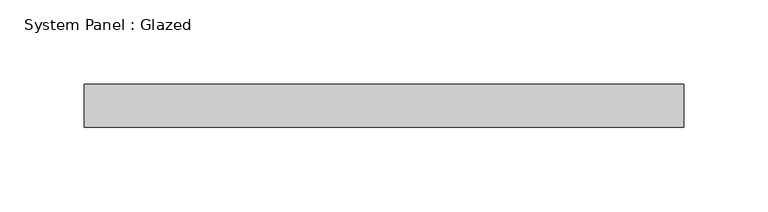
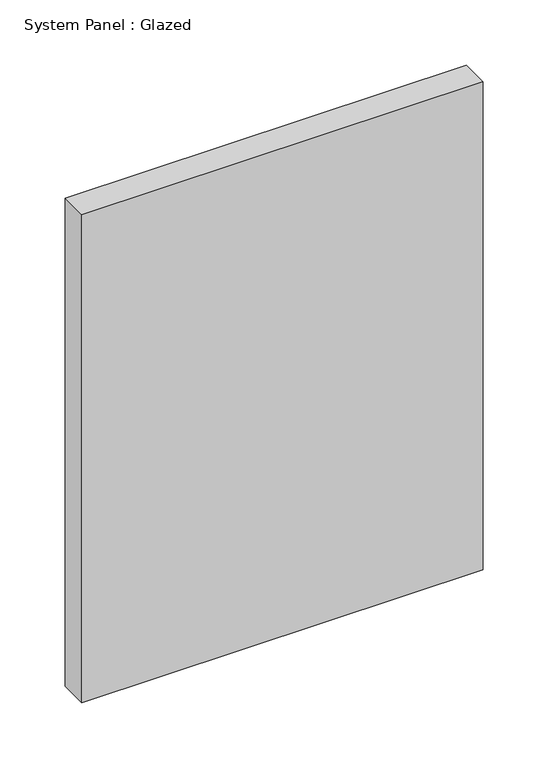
"""IFC4 building model written with IfcOpenShell, lengths in millimetres: plate geometry, System Panel : Glazed."""

from ifc_helpers import new_model, si_unit, origin, origin_with_axes, place, context, project, spatial, polyline, outline, extrude, source, transform, mapped, element, save


def system_panel_glazed_ab35d819(model_context):
    return source(origin(), model_context, "Body", "SweptSolid", [
        extrude(outline(polyline([(177.8, -44.45), (-177.8, -44.45), (-177.8, -19.05), (177.8, -19.05), (177.8, -44.45)])), origin_with_axes(), (0.0, 0.0, 1.0), 457.2),
    ])


if __name__ == "__main__":
    model = new_model("IFC4")
    model_context = context("Model", 3, world=origin())
    ifc_project = project(units=[si_unit("LENGTHUNIT", "METRE", prefix="MILLI")], contexts=[model_context])
    site = spatial("IfcSite", under=ifc_project)
    building = spatial("IfcBuilding", under=site)
    placement = place(None, origin())
    system_panel_glazed_shape = system_panel_glazed_ab35d819(model_context)
    element("IfcPlate", 1, ObjectType="System Panel : Glazed", at=placement, inside=building, context=model_context, shape_type="MappedRepresentation", body=[
        mapped(system_panel_glazed_shape, transform((0.0, 0.0, 0.0), x_axis=(1.0, 0.0, 0.0), y_axis=(0.0, 1.0, 0.0), z_axis=(0.0, 0.0, 1.0))),
    ])
    save(model, "model.ifc")
